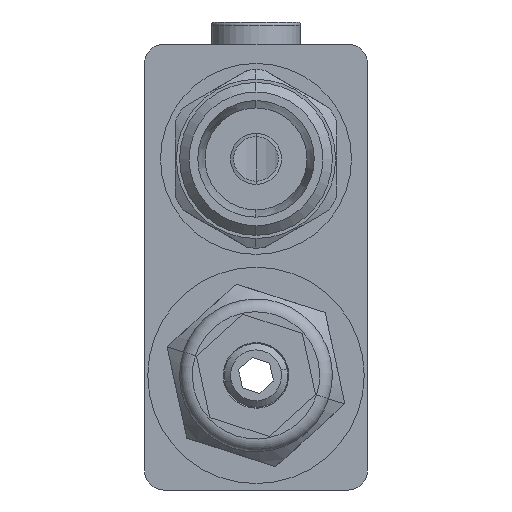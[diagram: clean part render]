
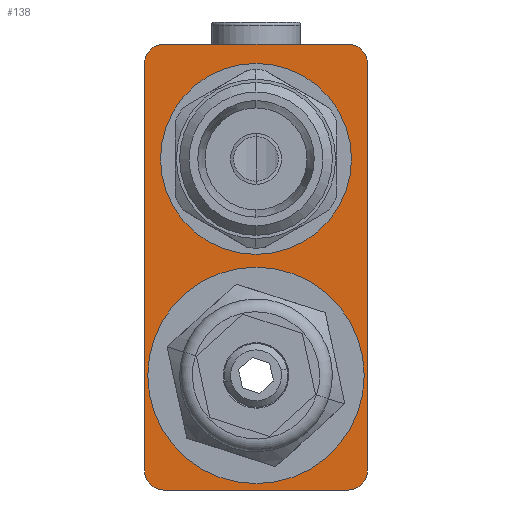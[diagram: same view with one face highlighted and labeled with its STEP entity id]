
A CAD part, left-side view. The second image highlights one B-rep face of the part: STEP entity #138.
In plain terms, the highlighted planar face has unit normal (-1, 0, 0).
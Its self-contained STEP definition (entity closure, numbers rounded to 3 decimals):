
#138 = ADVANCED_FACE ( 'NONE', ( #8364, #5575, #6270 ), #7530, .F. ) ;
#168 = CARTESIAN_POINT ( 'NONE',  ( -58., 14.5, 32. ) ) ;
#266 = DIRECTION ( 'NONE',  ( 0., 0., -1. ) ) ;
#317 = DIRECTION ( 'NONE',  ( 0., 0., -1. ) ) ;
#320 = EDGE_CURVE ( 'NONE', #3225, #4984, #5854, .T. ) ;
#363 = VECTOR ( 'NONE', #1615, 1000. ) ;
#376 = LINE ( 'NONE', #3877, #697 ) ;
#434 = DIRECTION ( 'NONE',  ( 0., 0., -1. ) ) ;
#500 = ORIENTED_EDGE ( 'NONE', *, *, #877, .T. ) ;
#531 = CARTESIAN_POINT ( 'NONE',  ( -58., 17.5, -32. ) ) ;
#544 = EDGE_LOOP ( 'NONE', ( #6116, #4173 ) ) ;
#561 = CARTESIAN_POINT ( 'NONE',  ( -58., 0., 17. ) ) ;
#697 = VECTOR ( 'NONE', #2476, 1000. ) ;
#877 = EDGE_CURVE ( 'NONE', #4984, #8622, #4815, .T. ) ;
#1028 = VERTEX_POINT ( 'NONE', #5447 ) ;
#1229 = AXIS2_PLACEMENT_3D ( 'NONE', #8805, #8760, #266 ) ;
#1319 = DIRECTION ( 'NONE',  ( 0., 0., 1. ) ) ;
#1572 = DIRECTION ( 'NONE',  ( 0., 0., -1. ) ) ;
#1615 = DIRECTION ( 'NONE',  ( 0., -1., 0. ) ) ;
#1743 = EDGE_LOOP ( 'NONE', ( #3590, #7155 ) ) ;
#1812 = ORIENTED_EDGE ( 'NONE', *, *, #2680, .T. ) ;
#2005 = EDGE_CURVE ( 'NONE', #6715, #7396, #2588, .T. ) ;
#2008 = CARTESIAN_POINT ( 'NONE',  ( -58., 14.5, -32. ) ) ;
#2065 = DIRECTION ( 'NONE',  ( -1., 0., 0. ) ) ;
#2136 = EDGE_CURVE ( 'NONE', #6428, #3097, #8392, .T. ) ;
#2476 = DIRECTION ( 'NONE',  ( 0., -1., 0. ) ) ;
#2496 = CIRCLE ( 'NONE', #3378, 17. ) ;
#2552 = DIRECTION ( 'NONE',  ( 1., 0., 0. ) ) ;
#2588 = CIRCLE ( 'NONE', #6772, 17. ) ;
#2680 = EDGE_CURVE ( 'NONE', #5391, #3225, #2944, .T. ) ;
#2845 = DIRECTION ( 'NONE',  ( -1., 0., 0. ) ) ;
#2872 = CARTESIAN_POINT ( 'NONE',  ( -58., 0., 32. ) ) ;
#2909 = VERTEX_POINT ( 'NONE', #2872 ) ;
#2944 = CIRCLE ( 'NONE', #5350, 3. ) ;
#2976 = ORIENTED_EDGE ( 'NONE', *, *, #7133, .T. ) ;
#3097 = VERTEX_POINT ( 'NONE', #3106 ) ;
#3106 = CARTESIAN_POINT ( 'NONE',  ( -58., 17.5, 32. ) ) ;
#3225 = VERTEX_POINT ( 'NONE', #6232 ) ;
#3295 = AXIS2_PLACEMENT_3D ( 'NONE', #3983, #6841, #434 ) ;
#3335 = ORIENTED_EDGE ( 'NONE', *, *, #320, .T. ) ;
#3358 = DIRECTION ( 'NONE',  ( -1., 0., 0. ) ) ;
#3378 = AXIS2_PLACEMENT_3D ( 'NONE', #7451, #6711, #5930 ) ;
#3590 = ORIENTED_EDGE ( 'NONE', *, *, #8971, .F. ) ;
#3601 = EDGE_CURVE ( 'NONE', #4189, #3097, #4063, .T. ) ;
#3627 = CARTESIAN_POINT ( 'NONE',  ( -58., -14.5, -35. ) ) ;
#3663 = ORIENTED_EDGE ( 'NONE', *, *, #9171, .T. ) ;
#3877 = CARTESIAN_POINT ( 'NONE',  ( -58., 17.5, -35. ) ) ;
#3983 = CARTESIAN_POINT ( 'NONE',  ( -58., 17.5, 35. ) ) ;
#4063 = LINE ( 'NONE', #7569, #8095 ) ;
#4173 = ORIENTED_EDGE ( 'NONE', *, *, #7358, .T. ) ;
#4189 = VERTEX_POINT ( 'NONE', #531 ) ;
#4214 = AXIS2_PLACEMENT_3D ( 'NONE', #168, #6623, #1572 ) ;
#4506 = CARTESIAN_POINT ( 'NONE',  ( -58., 17.5, 35. ) ) ;
#4598 = LINE ( 'NONE', #4506, #363 ) ;
#4775 = ORIENTED_EDGE ( 'NONE', *, *, #2136, .T. ) ;
#4815 = CIRCLE ( 'NONE', #1229, 3. ) ;
#4911 = DIRECTION ( 'NONE',  ( 0., 0., -1. ) ) ;
#4984 = VERTEX_POINT ( 'NONE', #6997 ) ;
#5160 = VERTEX_POINT ( 'NONE', #6773 ) ;
#5221 = EDGE_LOOP ( 'NONE', ( #7673, #3663, #2976, #1812, #3335, #500, #9004, #4775 ) ) ;
#5246 = CIRCLE ( 'NONE', #6425, 15. ) ;
#5350 = AXIS2_PLACEMENT_3D ( 'NONE', #8812, #8203, #8022 ) ;
#5391 = VERTEX_POINT ( 'NONE', #3627 ) ;
#5447 = CARTESIAN_POINT ( 'NONE',  ( -58., 0., 2. ) ) ;
#5575 = FACE_OUTER_BOUND ( 'NONE', #5221, .T. ) ;
#5649 = CIRCLE ( 'NONE', #7722, 15. ) ;
#5854 = LINE ( 'NONE', #8085, #7923 ) ;
#5930 = DIRECTION ( 'NONE',  ( 0., 0., -1. ) ) ;
#5994 = DIRECTION ( 'NONE',  ( 0., 0., 1. ) ) ;
#6004 = CARTESIAN_POINT ( 'NONE',  ( -58., 0., -34. ) ) ;
#6112 = CARTESIAN_POINT ( 'NONE',  ( -58., 0., -17. ) ) ;
#6116 = ORIENTED_EDGE ( 'NONE', *, *, #2005, .T. ) ;
#6231 = CARTESIAN_POINT ( 'NONE',  ( -58., -14.5, 35. ) ) ;
#6232 = CARTESIAN_POINT ( 'NONE',  ( -58., -17.5, -32. ) ) ;
#6270 = FACE_BOUND ( 'NONE', #1743, .T. ) ;
#6294 = CARTESIAN_POINT ( 'NONE',  ( -58., 14.5, 35. ) ) ;
#6425 = AXIS2_PLACEMENT_3D ( 'NONE', #7899, #2065, #1319 ) ;
#6428 = VERTEX_POINT ( 'NONE', #6294 ) ;
#6623 = DIRECTION ( 'NONE',  ( -1., 0., 0. ) ) ;
#6711 = DIRECTION ( 'NONE',  ( 1., 0., 0. ) ) ;
#6715 = VERTEX_POINT ( 'NONE', #6004 ) ;
#6772 = AXIS2_PLACEMENT_3D ( 'NONE', #6112, #2552, #317 ) ;
#6773 = CARTESIAN_POINT ( 'NONE',  ( -58., 14.5, -35. ) ) ;
#6841 = DIRECTION ( 'NONE',  ( 1., 0., 0. ) ) ;
#6920 = DIRECTION ( 'NONE',  ( 0., 0., 1. ) ) ;
#6997 = CARTESIAN_POINT ( 'NONE',  ( -58., -17.5, 32. ) ) ;
#7133 = EDGE_CURVE ( 'NONE', #5160, #5391, #376, .T. ) ;
#7155 = ORIENTED_EDGE ( 'NONE', *, *, #8692, .F. ) ;
#7358 = EDGE_CURVE ( 'NONE', #7396, #6715, #2496, .T. ) ;
#7396 = VERTEX_POINT ( 'NONE', #8852 ) ;
#7429 = CIRCLE ( 'NONE', #8921, 3. ) ;
#7451 = CARTESIAN_POINT ( 'NONE',  ( -58., 0., -17. ) ) ;
#7507 = EDGE_CURVE ( 'NONE', #6428, #8622, #4598, .T. ) ;
#7530 = PLANE ( 'NONE',  #3295 ) ;
#7569 = CARTESIAN_POINT ( 'NONE',  ( -58., 17.5, 35. ) ) ;
#7611 = DIRECTION ( 'NONE',  ( 0., 0., 1. ) ) ;
#7673 = ORIENTED_EDGE ( 'NONE', *, *, #3601, .F. ) ;
#7722 = AXIS2_PLACEMENT_3D ( 'NONE', #561, #3358, #7611 ) ;
#7899 = CARTESIAN_POINT ( 'NONE',  ( -58., 0., 17. ) ) ;
#7923 = VECTOR ( 'NONE', #5994, 1000. ) ;
#8022 = DIRECTION ( 'NONE',  ( 0., 0., -1. ) ) ;
#8085 = CARTESIAN_POINT ( 'NONE',  ( -58., -17.5, 35. ) ) ;
#8095 = VECTOR ( 'NONE', #6920, 1000. ) ;
#8203 = DIRECTION ( 'NONE',  ( -1., 0., 0. ) ) ;
#8364 = FACE_BOUND ( 'NONE', #544, .T. ) ;
#8392 = CIRCLE ( 'NONE', #4214, 3. ) ;
#8622 = VERTEX_POINT ( 'NONE', #6231 ) ;
#8692 = EDGE_CURVE ( 'NONE', #1028, #2909, #5246, .T. ) ;
#8760 = DIRECTION ( 'NONE',  ( -1., 0., 0. ) ) ;
#8805 = CARTESIAN_POINT ( 'NONE',  ( -58., -14.5, 32. ) ) ;
#8812 = CARTESIAN_POINT ( 'NONE',  ( -58., -14.5, -32. ) ) ;
#8852 = CARTESIAN_POINT ( 'NONE',  ( -58., 0., 0. ) ) ;
#8921 = AXIS2_PLACEMENT_3D ( 'NONE', #2008, #2845, #4911 ) ;
#8971 = EDGE_CURVE ( 'NONE', #2909, #1028, #5649, .T. ) ;
#9004 = ORIENTED_EDGE ( 'NONE', *, *, #7507, .F. ) ;
#9171 = EDGE_CURVE ( 'NONE', #4189, #5160, #7429, .T. ) ;
